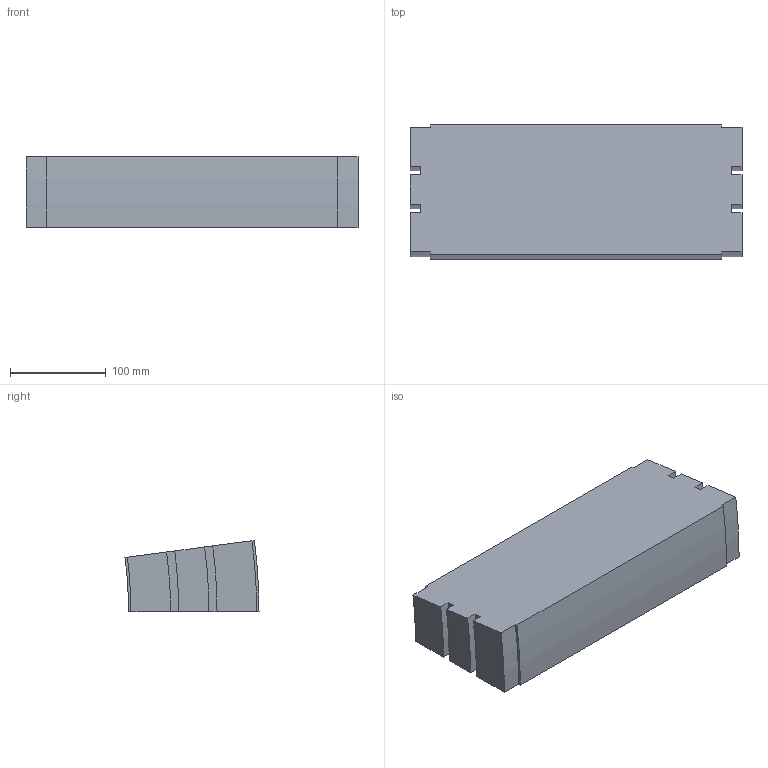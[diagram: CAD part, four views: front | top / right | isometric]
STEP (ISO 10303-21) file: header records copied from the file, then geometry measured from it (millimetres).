
FILE_DESCRIPTION (( 'STEP AP214' ), '1' );
FILE_NAME ('02.150V07.350.N FS-350-MTC-150 Bocht verticaal 7,5°.STEP', '2013-03-21T10:48:25', ( 'Gebruiker' ), ( '' ), 'SwSTEP 2.0', 'SolidWorks 2012', '' );
FILE_SCHEMA (( 'AUTOMOTIVE_DESIGN' ));
Length unit declared in the file: millimetre
Products named in the file (1): 02.150V07.350.N FS-350-MTC-150 Bocht verticaal 7,5°
Bounding box: 346 x 139.7 x 74.14 mm (x, y, z)
Volume: 3041585.3 mm3; surface area: 161797.2 mm2
Topology: 1 solids, 1 shells, 30 faces, 84 edges, 56 vertices
Faces by surface type: plane 16, cylinder 14
Entity records: 1010 total; most frequent: DIRECTION 174, CARTESIAN_POINT 171, ORIENTED_EDGE 168, EDGE_CURVE 84, AXIS2_PLACEMENT_3D 59, VECTOR 56, LINE 56, VERTEX_POINT 56
